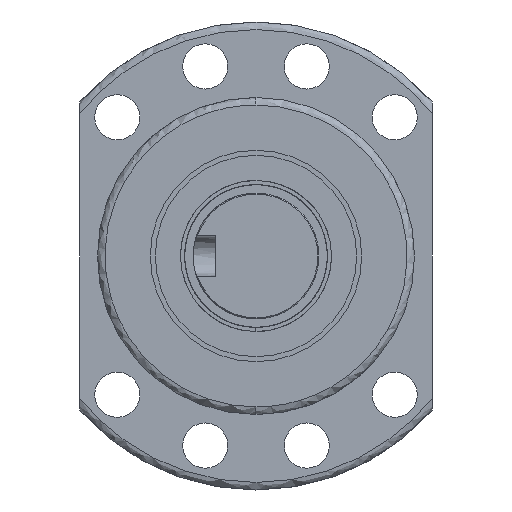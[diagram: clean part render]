
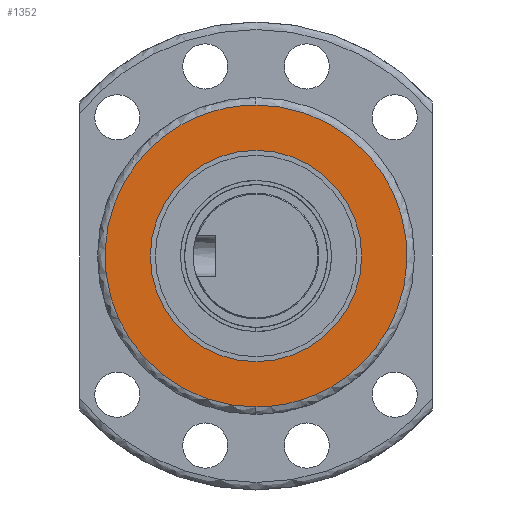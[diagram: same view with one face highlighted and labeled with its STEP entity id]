
A CAD part, left-side view. The second image highlights one B-rep face of the part: STEP entity #1352.
In plain terms, the highlighted planar face has unit normal (-1, 0, 0).
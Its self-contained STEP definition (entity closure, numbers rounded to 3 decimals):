
#304 = CARTESIAN_POINT ( 'NONE',  ( -75., 60., 30. ) ) ;
#397 = CARTESIAN_POINT ( 'NONE',  ( -75., 0., -30. ) ) ;
#419 = CARTESIAN_POINT ( 'NONE',  ( -75., 0., 0. ) ) ;
#472 = VERTEX_POINT ( 'NONE', #1056 ) ;
#486 = DIRECTION ( 'NONE',  ( 0., 0., 1. ) ) ;
#1056 = CARTESIAN_POINT ( 'NONE',  ( -75., 0., -30. ) ) ;
#1062 = ORIENTED_EDGE ( 'NONE', *, *, #4981, .F. ) ;
#1199 = CARTESIAN_POINT ( 'NONE',  ( -75., 0., -21. ) ) ;
#1223 = DIRECTION ( 'NONE',  ( 0., 0., 1. ) ) ;
#1249 = EDGE_CURVE ( 'NONE', #6343, #2236, #6370, .T. ) ;
#1352 = ADVANCED_FACE ( 'NONE', ( #3282, #3320 ), #2867, .F. ) ;
#1414 = CARTESIAN_POINT ( 'NONE',  ( -75., 0., 30. ) ) ;
#1463 = DIRECTION ( 'NONE',  ( -1., 0., 0. ) ) ;
#1749 = DIRECTION ( 'NONE',  ( 1., 0., 0. ) ) ;
#1868 =( BOUNDED_CURVE ( )  B_SPLINE_CURVE ( 3, ( #3013, #3043, #3447, #397 ),
 .UNSPECIFIED., .F., .F. ) 
 B_SPLINE_CURVE_WITH_KNOTS ( ( 4, 4 ),
 ( 0., 1. ),
 .UNSPECIFIED. ) 
 CURVE ( )  GEOMETRIC_REPRESENTATION_ITEM ( )  RATIONAL_B_SPLINE_CURVE ( ( 1., 0.333, 0.333, 1. ) ) 
 REPRESENTATION_ITEM ( '' )  );
#1895 = AXIS2_PLACEMENT_3D ( 'NONE', #3965, #1749, #3396 ) ;
#2236 = VERTEX_POINT ( 'NONE', #1199 ) ;
#2748 = VERTEX_POINT ( 'NONE', #4025 ) ;
#2867 = PLANE ( 'NONE',  #1895 ) ;
#3013 = CARTESIAN_POINT ( 'NONE',  ( -75., 0., 30. ) ) ;
#3043 = CARTESIAN_POINT ( 'NONE',  ( -75., -60., 30. ) ) ;
#3282 = FACE_BOUND ( 'NONE', #6153, .T. ) ;
#3320 = FACE_OUTER_BOUND ( 'NONE', #4132, .T. ) ;
#3396 = DIRECTION ( 'NONE',  ( 0., 1., 0. ) ) ;
#3447 = CARTESIAN_POINT ( 'NONE',  ( -75., -60., -30. ) ) ;
#3519 = EDGE_CURVE ( 'NONE', #472, #2748, #5006, .T. ) ;
#3949 = ORIENTED_EDGE ( 'NONE', *, *, #4400, .F. ) ;
#3965 = CARTESIAN_POINT ( 'NONE',  ( -75., 26.5, 0. ) ) ;
#4025 = CARTESIAN_POINT ( 'NONE',  ( -75., 0., 30. ) ) ;
#4079 = CARTESIAN_POINT ( 'NONE',  ( -75., 0., -30. ) ) ;
#4132 = EDGE_LOOP ( 'NONE', ( #3949, #6533 ) ) ;
#4156 = ORIENTED_EDGE ( 'NONE', *, *, #1249, .F. ) ;
#4281 = AXIS2_PLACEMENT_3D ( 'NONE', #419, #1463, #486 ) ;
#4400 = EDGE_CURVE ( 'NONE', #2748, #472, #1868, .T. ) ;
#4981 = EDGE_CURVE ( 'NONE', #2236, #6343, #5176, .T. ) ;
#5006 =( BOUNDED_CURVE ( )  B_SPLINE_CURVE ( 3, ( #4079, #5097, #304, #1414 ),
 .UNSPECIFIED., .F., .T. ) 
 B_SPLINE_CURVE_WITH_KNOTS ( ( 4, 4 ),
 ( 0., 1. ),
 .UNSPECIFIED. ) 
 CURVE ( )  GEOMETRIC_REPRESENTATION_ITEM ( )  RATIONAL_B_SPLINE_CURVE ( ( 1., 0.333, 0.333, 1. ) ) 
 REPRESENTATION_ITEM ( '' )  );
#5014 = DIRECTION ( 'NONE',  ( -1., 0., 0. ) ) ;
#5079 = CARTESIAN_POINT ( 'NONE',  ( -75., 0., 21. ) ) ;
#5097 = CARTESIAN_POINT ( 'NONE',  ( -75., 60., -30. ) ) ;
#5176 = CIRCLE ( 'NONE', #4281, 21. ) ;
#5596 = AXIS2_PLACEMENT_3D ( 'NONE', #6064, #5014, #1223 ) ;
#6064 = CARTESIAN_POINT ( 'NONE',  ( -75., 0., 0. ) ) ;
#6153 = EDGE_LOOP ( 'NONE', ( #4156, #1062 ) ) ;
#6343 = VERTEX_POINT ( 'NONE', #5079 ) ;
#6370 = CIRCLE ( 'NONE', #5596, 21. ) ;
#6533 = ORIENTED_EDGE ( 'NONE', *, *, #3519, .F. ) ;
